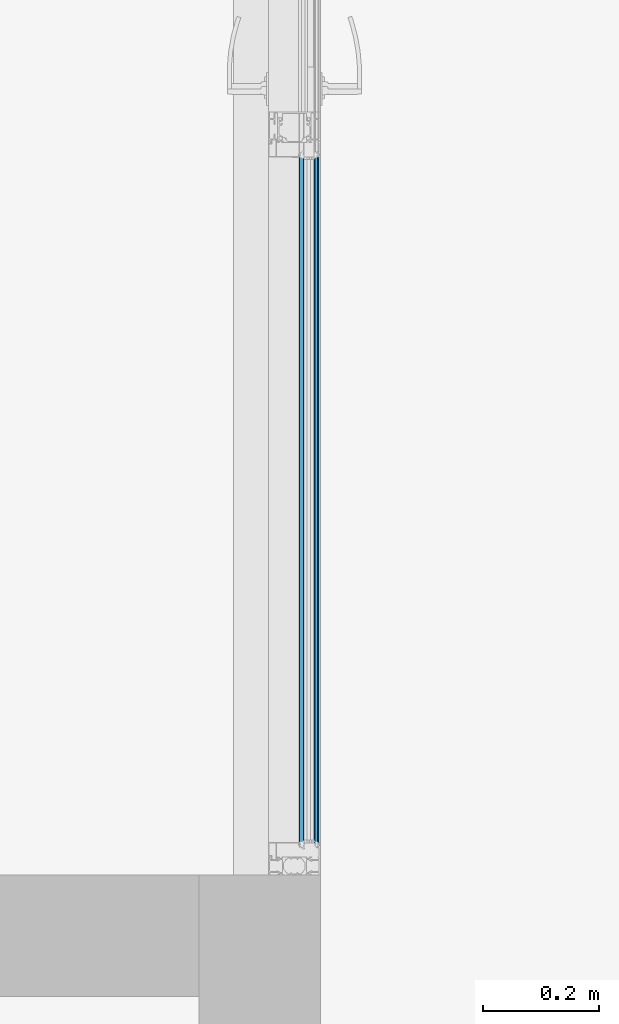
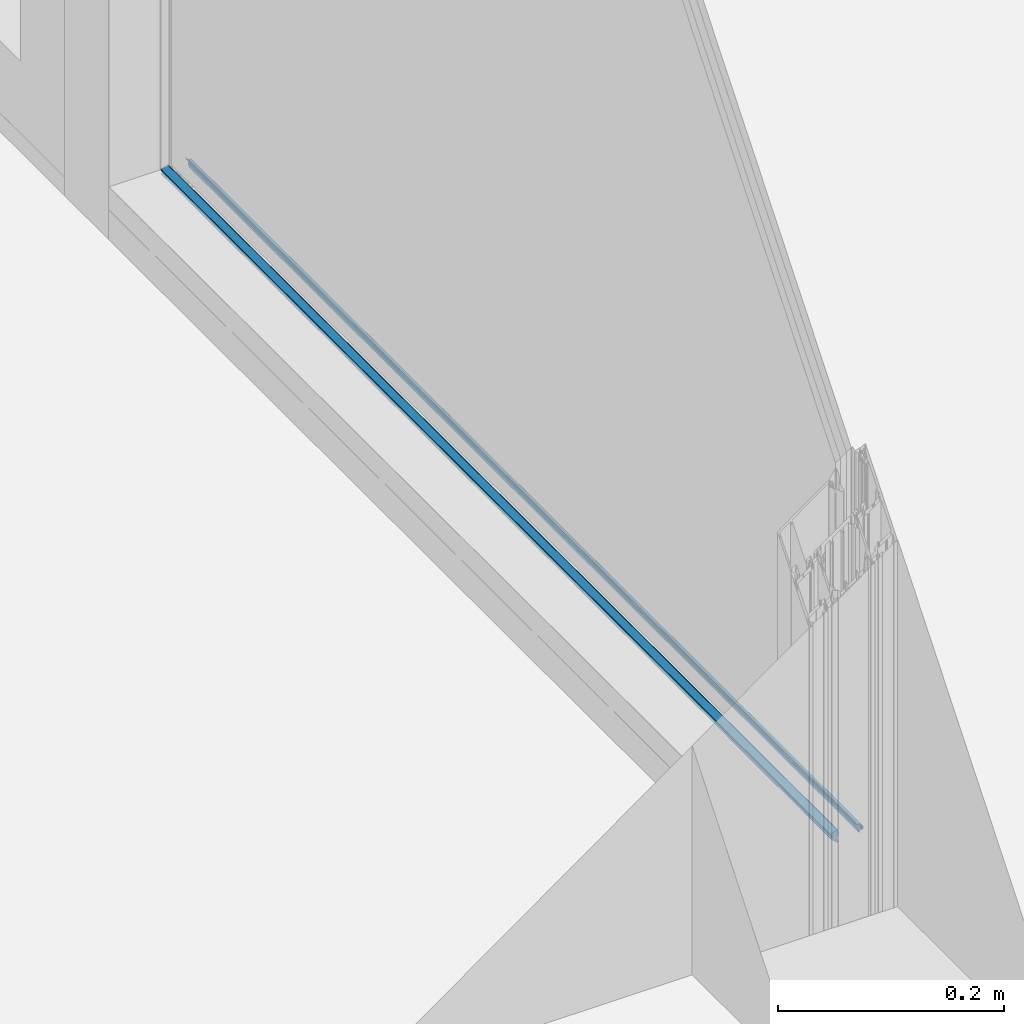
# One storey, part 40 of 62: 1 building element part, 2 elements without a shape of their own.
"""IFC2X3 building model written with IfcOpenShell, lengths in millimetres."""

from ifc_helpers import new_model, entity, si_unit, converted_unit, derived_unit, money_unit, direction, frame, origin_with_axes, place, context, subcontext, project, spatial, faceted_brep, material, type_object, element, aggregate, save


model = new_model("IFC2X3")

# Units and contexts
model_context = context("Model", 3, precision=0.01, world=origin_with_axes(), true_north=direction((0.0, 1.0)))
body_context = subcontext(model_context, "Body", "Model", "MODEL_VIEW")
ifc_project = project(units=[si_unit("LENGTHUNIT", "METRE", prefix="MILLI"), si_unit("AREAUNIT", "SQUARE_METRE"), si_unit("VOLUMEUNIT", "CUBIC_METRE"), converted_unit("PLANEANGLEUNIT", "DEGREE", entity("IfcPlaneAngleMeasure", 0.0174532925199), si_unit("PLANEANGLEUNIT", "RADIAN"), dimensions=[0, 0, 0, 0, 0, 0, 0]), si_unit("SOLIDANGLEUNIT", "STERADIAN"), money_unit("EUR"), converted_unit("TIMEUNIT", "Year", entity("IfcTimeMeasure", 31556926.0), si_unit("TIMEUNIT", "SECOND"), dimensions=[0, 0, 1, 0, 0, 0, 0]), si_unit("MASSUNIT", "GRAM", prefix="KILO"), si_unit("THERMODYNAMICTEMPERATUREUNIT", "DEGREE_CELSIUS"), si_unit("LUMINOUSINTENSITYUNIT", "LUMEN"), si_unit("ENERGYUNIT", "JOULE", prefix="MEGA"), derived_unit("THERMALCONDUCTANCEUNIT", [(si_unit("POWERUNIT", "WATT"), 1), (si_unit("LENGTHUNIT", "METRE"), -1), (si_unit("THERMODYNAMICTEMPERATUREUNIT", "KELVIN"), -1)]), derived_unit("SPECIFICHEATCAPACITYUNIT", [(si_unit("ENERGYUNIT", "JOULE"), 1), (si_unit("MASSUNIT", "GRAM", prefix="KILO"), -1), (si_unit("THERMODYNAMICTEMPERATUREUNIT", "KELVIN"), -1)]), derived_unit("MASSDENSITYUNIT", [(si_unit("MASSUNIT", "GRAM", prefix="KILO"), 1), (si_unit("VOLUMEUNIT", "CUBIC_METRE"), -1)])], contexts=[model_context])

# Site, building, storey
site_placement = place(None, origin_with_axes())
site = spatial("IfcSite", under=ifc_project, at=site_placement, Name="Puškini 31, Narva", CompositionType="ELEMENT")
building_placement = place(site_placement, origin_with_axes())
building = spatial("IfcBuilding", under=site, at=building_placement, Name="Narva Riigigümnaasium", CompositionType="ELEMENT")
storey_placement = place(building_placement, frame((0.0, 0.0, 660.0), z_axis=(0.0, 0.0, 1.0), x_axis=(1.0, 0.0, 0.0)))
storey = spatial("IfcBuildingStorey", under=building, at=storey_placement, Name="2.korrus +0.66", CompositionType="ELEMENT", Elevation=660.0)

# Curtain wall, member, building element part
curtain_wall_type = type_object("IfcCurtainWallType", Name="Curtain Wall Type", PredefinedType="NOTDEFINED")
curtain_wall_placement = place(storey_placement, frame((34855.0128096, 223200.000065, -2.45869393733e-05), z_axis=(0.0, 0.0, 1.0), x_axis=(1.0, 0.0, 0.0)))
curtain_wall = element("IfcCurtainWall", 1, at=curtain_wall_placement, inside=storey, type_object=curtain_wall_type, Name="G-SKLF-50")
member_type = type_object("IfcMemberType", Name="61 x -90", PredefinedType="MULLION")
member_placement = place(curtain_wall_placement, frame((-0.00290758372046, -677.999999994, 0.0), z_axis=(-4.28847155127e-06, -0.999999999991, 0.0), x_axis=(0.0, 0.0, 1.0)))
member = element("IfcMember", 2, at=member_placement, type_object=member_type, Name="G-SKLF-50-raam", ObjectType="MULLION")
aggregate(curtain_wall, [member])
ifc_material = material(Name="Membraan - Veekindel")
building_element_part_placement = place(member_placement, origin_with_axes())
building_element_part = element("IfcBuildingElementPart", 3, at=building_element_part_placement, material=ifc_material, Name="Membraan - Veekindel", context=body_context, shape_type="Brep", body=[
    faceted_brep([(61.0413385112, -34.389044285, -0.000147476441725), (61.0413385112, -34.3941304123, 1185.99985251), (59.5800222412, -34.7430336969, 1185.99985102), (59.5800222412, -34.7379475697, -0.000148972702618), (61.1536677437, -34.1934467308, -0.000146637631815), (61.1536677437, -34.198532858, 1185.99985335), (61.1423164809, -33.9732610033, 1185.99985432), (61.0108941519, -33.789945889, 1185.9998551), (60.7381535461, -33.9268505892, 1185.99985452), (59.8409257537, -34.1393993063, 1185.99985361), (58.2346494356, -34.5540007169, 1185.99985183), (56.9567944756, -35.6118781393, 1185.99984729), (56.2495873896, -37.1125033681, 1185.99984085), (56.1542959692, -37.3158778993, 1185.99983998), (55.9795989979, -37.4570254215, 1185.99983938), (55.7607444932, -37.5074670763, 1185.99983916), (55.1093263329, -37.5074670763, 1185.99983916), (54.8593263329, -37.4404797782, 1185.99983945), (54.676313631, -37.2574670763, 1185.99984023), (54.2721684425, -36.5574670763, 1185.99984324), (54.0891557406, -36.3744543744, 1185.99984402), (53.8391557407, -36.3074670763, 1185.99984431), (51.602145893, -36.3074670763, 1185.99984431), (51.352145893, -36.3744543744, 1185.99984402), (51.1691331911, -36.5574670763, 1185.99984324), (50.7649880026, -37.2574670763, 1185.99984023), (50.5819753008, -37.4404797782, 1185.99983945), (50.3319753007, -37.5074670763, 1185.99983916), (49.2206527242, -37.5074670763, 1185.99983916), (48.9706527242, -37.5744543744, 1185.99983887), (48.7876400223, -37.7574670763, 1185.99983809), (48.7206527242, -38.0074670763, 1185.99983702), (48.7206527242, -39.2050355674, 1185.99983188), (50.10004, -39.2050355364, 1185.99983188), (50.1670287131, -38.9550359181, 1185.99983295), (50.3500424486, -38.7720242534, 1185.99983374), (50.6000428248, -38.7050383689, 1185.99983403), (50.8500424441, -38.7720270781, 1185.99983374), (51.0330541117, -38.9550408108, 1185.99983295), (51.10004, -39.205041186, 1185.99983188), (51.10004, -40.5050228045, 1185.99982631), (51.0598476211, -40.6550228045, 1185.99982566), (50.95004, -40.7648304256, 1185.99982519), (50.80004, -40.8050228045, 1185.99982502), (50.7000457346, -40.8050228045, 1185.99982502), (50.5334025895, -40.8555624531, 1185.9998248), (50.4229059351, -40.9901532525, 1185.99982423), (50.4057850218, -41.1634479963, 1185.99982348), (50.4878083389, -41.317059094, 1185.99982282), (51.5281601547, -42.3584172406, 1185.99981836), (51.6904310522, -42.4669283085, 1185.99981789), (51.8818844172, -42.5050348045, 1185.99981773), (53.517932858, -42.5050348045, 1185.99981773), (53.7093558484, -42.4669408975, 1185.99981789), (53.8716106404, -42.3584637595, 1185.99981836), (54.9122350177, -41.3171067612, 1185.99982282), (54.9942836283, -41.1634908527, 1185.99982348), (54.9771753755, -40.9901786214, 1185.99982423), (54.866675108, -40.8555698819, 1185.9998248), (54.7000173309, -40.8050228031, 1185.99982502), (54.6000210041, -40.8050228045, 1185.99982502), (54.4500210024, -40.764830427, 1185.99982519), (54.3402133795, -40.6550228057, 1185.99982566), (54.300021, -40.5050228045, 1185.99982631), (54.300021, -39.2050468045, 1185.99983188), (54.3670082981, -38.9550468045, 1185.99983295), (54.5500210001, -38.7720341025, 1185.99983374), (54.8000210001, -38.7050468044, 1185.99983403), (55.0500210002, -38.7720341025, 1185.99983374), (55.2330337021, -38.9550468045, 1185.99983295), (55.3000210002, -39.2050468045, 1185.99983188), (57.3000022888, -39.2050355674, 1185.99983188), (57.3000022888, -40.0050708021, 1185.99982845), (57.5000161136, -39.9514773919, 1185.99982868), (57.6464370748, -39.8050578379, 1185.99982931), (57.7000324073, -39.6050445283, 1185.99983017), (57.9693613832, -36.5316743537, 1185.99984335), (58.4755028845, -35.3679360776, 1185.99984834), (53.5000340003, -40.8050414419, 1185.99982502), (53.4330491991, -41.0550321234, 1185.99982395), (53.2500433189, -41.2380380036, 1185.99982316), (53.0000526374, -41.3050228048, 1185.99982288), (52.4000083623, -41.3050228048, 1185.99982288), (52.150017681, -41.2380380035, 1185.99982316), (51.9670118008, -41.0550321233, 1185.99982395), (51.9000269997, -40.8050414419, 1185.99982502), (51.9000269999, -39.7050129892, 1185.99982974), (51.9670129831, -39.4550178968, 1185.99983081), (52.1500220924, -39.2720087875, 1185.99983159), (52.4000171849, -39.2050228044, 1185.99983188), (53.0000438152, -39.2050228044, 1185.99983188), (53.2500389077, -39.2720087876, 1185.99983159), (53.433048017, -39.4550178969, 1185.99983081), (58.4755028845, -35.3628499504, -0.0001516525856), (57.9693613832, -36.5265882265, -0.000156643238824), (57.7000324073, -39.599958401, -0.000169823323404), (57.6464370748, -39.7999717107, -0.000170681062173), (57.5000161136, -39.9463912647, -0.000171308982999), (57.3000022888, -39.9999846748, -0.000171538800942), (57.3000022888, -39.1999494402, -0.000168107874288), (55.3000210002, -39.1999606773, -0.000168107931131), (55.2330337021, -38.9499606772, -0.000167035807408), (55.0500210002, -38.7669479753, -0.000166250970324), (54.8000210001, -38.6999606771, -0.000165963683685), (54.5500210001, -38.7669479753, -0.000166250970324), (54.3670082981, -38.9499606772, -0.000167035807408), (54.300021, -39.1999606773, -0.000168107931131), (54.300021, -40.4999366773, -0.000173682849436), (54.3402133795, -40.6499366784, -0.000174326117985), (54.4500210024, -40.7597442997, -0.000174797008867), (54.6000210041, -40.7999366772, -0.000174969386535), (54.7000173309, -40.7999366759, -0.000174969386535), (54.866675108, -40.8504837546, -0.000175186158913), (54.9771753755, -40.9850924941, -0.000175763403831), (54.9942836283, -41.1584047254, -0.000176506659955), (54.9122350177, -41.312020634, -0.000177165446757), (53.8716106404, -42.3533776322, -0.000181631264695), (53.7093558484, -42.4618547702, -0.000182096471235), (53.517932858, -42.4999486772, -0.000182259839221), (51.8818844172, -42.4999486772, -0.000182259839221), (51.6904310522, -42.4618421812, -0.000182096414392), (51.5281601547, -42.3533311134, -0.000181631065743), (50.4878083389, -41.3119729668, -0.000177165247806), (50.4057850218, -41.158361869, -0.000176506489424), (50.4229059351, -40.9850671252, -0.000175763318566), (50.5334025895, -40.8504763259, -0.000175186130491), (50.7000457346, -40.7999366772, -0.000174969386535), (50.80004, -40.7999366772, -0.000174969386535), (50.95004, -40.7597442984, -0.000174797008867), (51.0598476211, -40.6499366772, -0.000174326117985), (51.10004, -40.4999366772, -0.000173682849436), (51.10004, -39.1999550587, -0.000168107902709), (51.0330541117, -38.9499546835, -0.000167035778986), (50.8500424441, -38.7669409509, -0.000166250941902), (50.6000428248, -38.6999522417, -0.000165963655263), (50.3500424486, -38.7669381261, -0.00016625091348), (50.1670287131, -38.9499497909, -0.000167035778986), (50.10004, -39.1999494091, -0.000168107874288), (48.7206527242, -39.1999494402, -0.000168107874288), (48.7206527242, -38.002380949, -0.000162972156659), (48.7876400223, -37.752380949, -0.000161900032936), (48.9706527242, -37.5693682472, -0.00016111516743), (49.2206527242, -37.5023809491, -0.000160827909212), (50.3319753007, -37.5023809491, -0.000160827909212), (50.5819753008, -37.4353936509, -0.000160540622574), (50.7649880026, -37.2523809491, -0.000159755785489), (51.1691331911, -36.5523809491, -0.000156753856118), (51.352145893, -36.3693682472, -0.000155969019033), (51.602145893, -36.3023809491, -0.000155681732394), (53.8391557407, -36.3023809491, -0.000155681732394), (54.0891557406, -36.3693682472, -0.000155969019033), (54.2721684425, -36.552380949, -0.000156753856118), (54.676313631, -37.2523809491, -0.000159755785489), (54.8593263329, -37.4353936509, -0.000160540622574), (55.1093263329, -37.5023809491, -0.000160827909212), (55.7607444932, -37.5023809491, -0.000160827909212), (55.9795989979, -37.4519392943, -0.000160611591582), (56.1542959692, -37.3107917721, -0.000160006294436), (56.2495873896, -37.1074172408, -0.000159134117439), (56.9567944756, -35.6067920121, -0.000152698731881), (58.2346494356, -34.5489145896, -0.000148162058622), (59.8409257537, -34.1343131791, -0.000146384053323), (60.7381535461, -33.9217644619, -0.00014547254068), (61.0108941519, -33.7848597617, -0.000144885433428), (61.1423164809, -33.968174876, -0.000145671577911), (53.5000340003, -40.7999553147, -0.0001749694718), (53.433048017, -39.4499317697, -0.000169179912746), (53.2500389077, -39.2669226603, -0.000168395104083), (53.0000438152, -39.1999366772, -0.000168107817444), (52.4000171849, -39.1999366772, -0.000168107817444), (52.1500220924, -39.2669226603, -0.000168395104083), (51.9670129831, -39.4499317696, -0.000169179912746), (51.9000269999, -39.699926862, -0.000170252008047), (51.9000269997, -40.7999553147, -0.0001749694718), (51.9670118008, -41.049945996, -0.00017604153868), (52.150017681, -41.2329518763, -0.000176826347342), (52.4000083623, -41.2999366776, -0.000177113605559), (53.0000526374, -41.2999366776, -0.000177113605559), (53.2500433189, -41.2329518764, -0.000176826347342), (53.4330491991, -41.0499459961, -0.00017604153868)], [[[0, 1, 2, 3]], [[4, 5, 1, 0]], [[1, 5, 6, 7, 8, 9, 10, 11, 12, 13, 14, 15, 16, 17, 18, 19, 20, 21, 22, 23, 24, 25, 26, 27, 28, 29, 30, 31, 32, 33, 34, 35, 36, 37, 38, 39, 40, 41, 42, 43, 44, 45, 46, 47, 48, 49, 50, 51, 52, 53, 54, 55, 56, 57, 58, 59, 60, 61, 62, 63, 64, 65, 66, 67, 68, 69, 70, 71, 72, 73, 74, 75, 76, 77, 2], [78, 79, 80, 81, 82, 83, 84, 85, 86, 87, 88, 89, 90, 91, 92]], [[3, 2, 77, 93]], [[0, 3, 93, 94, 95, 96, 97, 98, 99, 100, 101, 102, 103, 104, 105, 106, 107, 108, 109, 110, 111, 112, 113, 114, 115, 116, 117, 118, 119, 120, 121, 122, 123, 124, 125, 126, 127, 128, 129, 130, 131, 132, 133, 134, 135, 136, 137, 138, 139, 140, 141, 142, 143, 144, 145, 146, 147, 148, 149, 150, 151, 152, 153, 154, 155, 156, 157, 158, 159, 160, 161, 162, 163, 164, 4], [165, 166, 167, 168, 169, 170, 171, 172, 173, 174, 175, 176, 177, 178, 179]], [[164, 6, 5, 4]], [[163, 7, 6, 164]], [[162, 8, 7, 163]], [[161, 9, 8, 162]], [[160, 10, 9, 161]], [[159, 11, 10, 160]], [[158, 12, 11, 159]], [[157, 13, 12, 158]], [[156, 14, 13, 157]], [[155, 15, 14, 156]], [[154, 16, 15, 155]], [[153, 17, 16, 154]], [[152, 18, 17, 153]], [[151, 19, 18, 152]], [[150, 20, 19, 151]], [[149, 21, 20, 150]], [[148, 22, 21, 149]], [[147, 23, 22, 148]], [[146, 24, 23, 147]], [[145, 25, 24, 146]], [[144, 26, 25, 145]], [[143, 27, 26, 144]], [[142, 28, 27, 143]], [[141, 29, 28, 142]], [[140, 30, 29, 141]], [[139, 31, 30, 140]], [[138, 32, 31, 139]], [[137, 33, 32, 138]], [[136, 34, 33, 137]], [[135, 35, 34, 136]], [[134, 36, 35, 135]], [[133, 37, 36, 134]], [[132, 38, 37, 133]], [[131, 39, 38, 132]], [[130, 40, 39, 131]], [[129, 41, 40, 130]], [[128, 42, 41, 129]], [[127, 43, 42, 128]], [[126, 44, 43, 127]], [[125, 45, 44, 126]], [[124, 46, 45, 125]], [[123, 47, 46, 124]], [[122, 48, 47, 123]], [[121, 49, 48, 122]], [[120, 50, 49, 121]], [[119, 51, 50, 120]], [[118, 52, 51, 119]], [[117, 53, 52, 118]], [[116, 54, 53, 117]], [[115, 55, 54, 116]], [[114, 56, 55, 115]], [[113, 57, 56, 114]], [[112, 58, 57, 113]], [[111, 59, 58, 112]], [[110, 60, 59, 111]], [[109, 61, 60, 110]], [[108, 62, 61, 109]], [[107, 63, 62, 108]], [[106, 64, 63, 107]], [[105, 65, 64, 106]], [[104, 66, 65, 105]], [[103, 67, 66, 104]], [[102, 68, 67, 103]], [[101, 69, 68, 102]], [[100, 70, 69, 101]], [[99, 71, 70, 100]], [[98, 72, 71, 99]], [[97, 73, 72, 98]], [[96, 74, 73, 97]], [[95, 75, 74, 96]], [[94, 76, 75, 95]], [[93, 77, 76, 94]], [[179, 79, 78, 165]], [[178, 80, 79, 179]], [[177, 81, 80, 178]], [[176, 82, 81, 177]], [[175, 83, 82, 176]], [[174, 84, 83, 175]], [[173, 85, 84, 174]], [[172, 86, 85, 173]], [[171, 87, 86, 172]], [[170, 88, 87, 171]], [[169, 89, 88, 170]], [[168, 90, 89, 169]], [[167, 91, 90, 168]], [[166, 92, 91, 167]], [[165, 78, 92, 166]]]),
    faceted_brep([(59.0307115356, -16.5541498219, -7.09920016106e-05), (59.0307115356, -16.5592359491, 1185.999929), (55.9926715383, -16.8114359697, 1185.99992792), (55.9926715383, -16.8063498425, -7.20735613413e-05), (59.3884652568, -16.1092618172, -6.90841375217e-05), (59.3884652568, -16.1143479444, 1185.9999309), (59.5001582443, -15.5544928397, 1185.99993331), (59.3405112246, -15.0063816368, 1185.99993566), (57.5418652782, -10.0086791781, 1185.99995709), (57.2632233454, -8.47440734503, 1185.99996367), (57.1824204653, -8.37254060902, 1185.99996411), (57.0661058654, -8.31442992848, 1185.99996435), (56.9361285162, -8.31099103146, 1185.99996437), (55.5361285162, -8.58312346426, 1185.9999632), (55.4168250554, -8.63505965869, 1185.99996298), (55.3307332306, -8.73262441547, 1185.99996256), (55.2940485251, -8.85746397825, 1185.99996203), (55.4099827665, -9.81780728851, 1185.99995791), (55.3838261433, -9.98316923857, 1185.9999572), (55.2731258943, -10.108764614, 1185.99995666), (55.1123574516, -10.1554791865, 1185.99995646), (53.0580290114, -10.1554791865, 1185.99995646), (52.8859560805, -10.1012247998, 1185.99995669), (52.7761212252, -9.95808522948, 1185.99995731), (52.3556584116, -8.8028731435, 1185.99996226), (52.2574645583, -8.66835023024, 1185.99996284), (52.1026310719, -8.6069903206, 1185.9999631), (51.938943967, -8.63773082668, 1185.99996297), (51.8169217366, -8.75108435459, 1185.99996248), (45.6142070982, -15.4195621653, 1185.99993388), (45.3418968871, -15.7739484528, 1185.99993236), (45.3195226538, -16.2203136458, 1185.99993045), (45.3889077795, -16.3949958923, 1185.9999297), (45.6241929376, -16.6532888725, 1185.99992859), (45.950966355, -16.7769557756, 1185.99992806), (46.298307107, -16.7391566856, 1185.99992823), (50.5536994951, -15.217204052, 1185.99993475), (50.8437237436, -15.035799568, 1185.99993553), (51.0558924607, -14.9124897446, 1185.99993606), (51.3011765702, -14.9049675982, 1185.99993609), (51.5205025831, -15.01504474, 1185.99993562), (53.1225200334, -16.3533923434, 1185.99992988), (53.7899070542, -16.6280900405, 1185.9999287), (53.7899070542, -16.6230039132, -7.12873031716e-05), (53.1225200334, -16.3483062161, -7.01092517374e-05), (51.5205025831, -15.0099586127, -6.43698001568e-05), (51.3011765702, -14.899881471, -6.38977439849e-05), (51.0558924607, -14.9074036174, -6.39300026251e-05), (50.8437237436, -15.0307134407, -6.4458788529e-05), (50.5536994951, -15.2121179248, -6.52367475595e-05), (46.298307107, -16.7340705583, -7.17635941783e-05), (45.950966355, -16.7718696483, -7.19257116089e-05), (45.6241929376, -16.6482027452, -7.13953625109e-05), (45.3889077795, -16.3899097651, -7.02876832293e-05), (45.3195226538, -16.2152275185, -6.95385438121e-05), (45.3418968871, -15.7688623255, -6.76243416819e-05), (45.6142070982, -15.414476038, -6.61045476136e-05), (51.8169217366, -8.74599822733, -3.75069646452e-05), (51.938943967, -8.63264469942, -3.70208681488e-05), (52.1026310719, -8.60190419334, -3.68890482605e-05), (52.2574645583, -8.66326410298, -3.71521764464e-05), (52.3556584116, -8.79778701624, -3.77290803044e-05), (52.7761212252, -9.95299910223, -4.26831547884e-05), (52.8859560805, -10.0961386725, -4.32970068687e-05), (53.0580290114, -10.1503930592, -4.35296954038e-05), (55.1123574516, -10.1503930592, -4.35296954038e-05), (55.2731258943, -10.1036784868, -4.3329350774e-05), (55.3838261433, -9.97808311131, -4.27907309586e-05), (55.4099827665, -9.81272116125, -4.20815808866e-05), (55.2940485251, -8.85237785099, -3.7963189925e-05), (55.3307332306, -8.72753828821, -3.74278101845e-05), (55.4168250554, -8.62997353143, -3.70094141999e-05), (55.5361285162, -8.578037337, -3.67866732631e-05), (56.9361285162, -8.3059049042, -3.56196494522e-05), (57.0661058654, -8.30934380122, -3.56344003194e-05), (57.1824204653, -8.36745448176, -3.58836018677e-05), (57.2632233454, -8.46932121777, -3.63204435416e-05), (57.5418652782, -10.0035930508, -4.29001261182e-05), (59.3405112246, -15.0012955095, -6.43326529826e-05), (59.5001582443, -15.5494067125, -6.66832136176e-05)], [[[0, 1, 2, 3]], [[4, 5, 1, 0]], [[1, 5, 6, 7, 8, 9, 10, 11, 12, 13, 14, 15, 16, 17, 18, 19, 20, 21, 22, 23, 24, 25, 26, 27, 28, 29, 30, 31, 32, 33, 34, 35, 36, 37, 38, 39, 40, 41, 42, 2]], [[3, 2, 42, 43]], [[0, 3, 43, 44, 45, 46, 47, 48, 49, 50, 51, 52, 53, 54, 55, 56, 57, 58, 59, 60, 61, 62, 63, 64, 65, 66, 67, 68, 69, 70, 71, 72, 73, 74, 75, 76, 77, 78, 79, 4]], [[79, 6, 5, 4]], [[78, 7, 6, 79]], [[77, 8, 7, 78]], [[76, 9, 8, 77]], [[75, 10, 9, 76]], [[74, 11, 10, 75]], [[73, 12, 11, 74]], [[72, 13, 12, 73]], [[71, 14, 13, 72]], [[70, 15, 14, 71]], [[69, 16, 15, 70]], [[68, 17, 16, 69]], [[67, 18, 17, 68]], [[66, 19, 18, 67]], [[65, 20, 19, 66]], [[64, 21, 20, 65]], [[63, 22, 21, 64]], [[62, 23, 22, 63]], [[61, 24, 23, 62]], [[60, 25, 24, 61]], [[59, 26, 25, 60]], [[58, 27, 26, 59]], [[57, 28, 27, 58]], [[56, 29, 28, 57]], [[55, 30, 29, 56]], [[54, 31, 30, 55]], [[53, 32, 31, 54]], [[52, 33, 32, 53]], [[51, 34, 33, 52]], [[50, 35, 34, 51]], [[49, 36, 35, 50]], [[48, 37, 36, 49]], [[47, 38, 37, 48]], [[46, 39, 38, 47]], [[45, 40, 39, 46]], [[44, 41, 40, 45]], [[43, 42, 41, 44]]]),
])
aggregate(member, [building_element_part])

save(model, "model.ifc")
